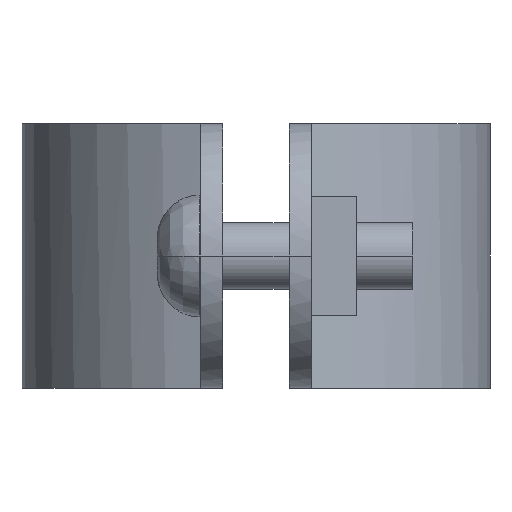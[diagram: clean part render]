
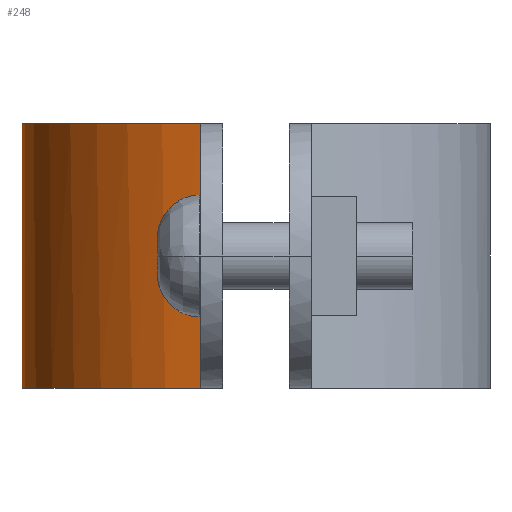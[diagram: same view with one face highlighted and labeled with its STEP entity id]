
A CAD part, left-side view. The second image highlights one B-rep face of the part: STEP entity #248.
In plain terms, the highlighted free-form (B-spline) face has degree [3, 1] with [4, 2] control points.
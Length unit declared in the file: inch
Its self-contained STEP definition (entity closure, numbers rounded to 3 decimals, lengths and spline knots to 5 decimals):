
#248=ADVANCED_FACE('',(#501),#502,.T.);
#501=FACE_OUTER_BOUND('',#1161,.T.);
#502=B_SPLINE_SURFACE_WITH_KNOTS('',3,1,((#1162,#1163),(#1164,#1165),(#1166,#1167),(#1168,#1169)),.UNSPECIFIED.,.F.,.F.,.F.,(4,4),(2,2),(0.0,1.0),(0.0,1.25),.UNSPECIFIED.);
#1161=EDGE_LOOP('',(#1695,#1696,#1697,#1698));
#1162=CARTESIAN_POINT('',(1.81183,2.49557,0.0));
#1163=CARTESIAN_POINT('',(1.81183,2.49557,1.25));
#1164=CARTESIAN_POINT('',(1.30264,2.49557,0.0));
#1165=CARTESIAN_POINT('',(1.30264,2.49557,1.25));
#1166=CARTESIAN_POINT('',(0.85945,2.14728,0.0));
#1167=CARTESIAN_POINT('',(0.85945,2.14728,1.25));
#1168=CARTESIAN_POINT('',(0.73905,1.65248,0.0));
#1169=CARTESIAN_POINT('',(0.73905,1.65248,1.25));
#1695=ORIENTED_EDGE('',*,*,#2215,.T.);
#1696=ORIENTED_EDGE('',*,*,#2216,.T.);
#1697=ORIENTED_EDGE('',*,*,#2196,.T.);
#1698=ORIENTED_EDGE('',*,*,#2217,.F.);
#2196=EDGE_CURVE('',#2560,#2557,#2561,.T.);
#2215=EDGE_CURVE('',#2589,#2590,#2591,.T.);
#2216=EDGE_CURVE('',#2590,#2560,#2592,.T.);
#2217=EDGE_CURVE('',#2589,#2557,#2593,.T.);
#2557=VERTEX_POINT('',#3243);
#2560=VERTEX_POINT('',#3247);
#2561=B_SPLINE_CURVE_WITH_KNOTS('',3,(#3248,#3249,#3250,#3251),.UNSPECIFIED.,.F.,.F.,(4,4),(-1.0,-0.0),.UNSPECIFIED.);
#2589=VERTEX_POINT('',#3299);
#2590=VERTEX_POINT('',#3300);
#2591=B_SPLINE_CURVE_WITH_KNOTS('',3,(#3301,#3302,#3303,#3304),.UNSPECIFIED.,.F.,.F.,(4,4),(0.0,1.0),.UNSPECIFIED.);
#2592=LINE('',#3305,#3306);
#2593=LINE('',#3307,#3308);
#3243=CARTESIAN_POINT('',(1.81183,2.49557,1.24989));
#3247=CARTESIAN_POINT('',(0.73905,1.65248,1.24989));
#3248=CARTESIAN_POINT('',(0.73905,1.65248,1.24989));
#3249=CARTESIAN_POINT('',(0.85945,2.14728,1.24989));
#3250=CARTESIAN_POINT('',(1.30264,2.49557,1.24989));
#3251=CARTESIAN_POINT('',(1.81183,2.49557,1.24989));
#3299=CARTESIAN_POINT('',(1.81183,2.49557,0.00011));
#3300=CARTESIAN_POINT('',(0.73905,1.65248,0.00011));
#3301=CARTESIAN_POINT('',(1.81183,2.49557,0.00011));
#3302=CARTESIAN_POINT('',(1.30264,2.49557,0.00011));
#3303=CARTESIAN_POINT('',(0.85945,2.14728,0.00011));
#3304=CARTESIAN_POINT('',(0.73905,1.65248,0.00011));
#3305=CARTESIAN_POINT('',(0.73905,1.65248,0.0));
#3306=VECTOR('',#3646,1.0);
#3307=CARTESIAN_POINT('',(1.81183,2.49557,0.0));
#3308=VECTOR('',#3647,1.0);
#3646=DIRECTION('',(0.0,0.0,1.0));
#3647=DIRECTION('',(0.0,0.0,1.0));
